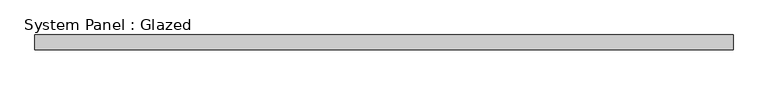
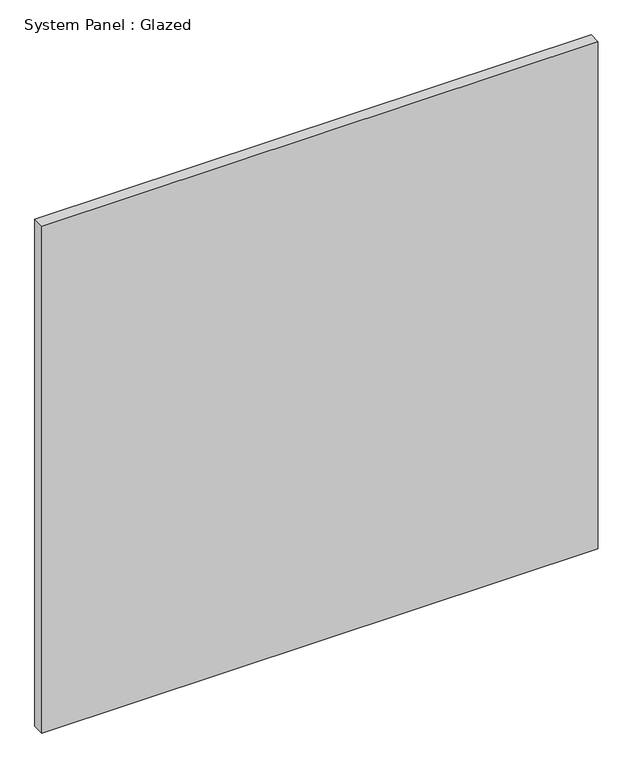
"""IFC4 building model written with IfcOpenShell, lengths in millimetres: plate geometry, System Panel : Glazed."""

import ifcopenshell
import ifcopenshell.guid

model = None  # the IFC model being written
_history = None  # IfcOwnerHistory: only IFC2X3 demands one
_inside = {}  # id of a spatial element -> (the spatial element, [elements in it])
_under = {}  # id of a project, library or spatial element -> (it, [spatial elements below it])
_declared = {}  # id of a project -> (the project, [libraries it declares])
_typed = {}  # id of a type object -> (the type object, [elements of that type])
_made_of = {}  # id of a material, layer set ... -> (it, [elements and type objects made of it])


def new_model(schema):
    """Start an empty IFC model of exactly this schema.

    Asked for "IFC4X3", IfcOpenShell would pick the latest addendum, in which some entities
    have other attributes; the version numbers below select the first issue.
    IFC2X3 requires an IfcOwnerHistory on every rooted entity: one is made here for all.
    """
    global model, _history
    if schema == "IFC4X3":
        model = ifcopenshell.file(schema_version=(4, 3, 0, 0))
    else:
        model = ifcopenshell.file(schema=schema)
    _inside.clear()
    _under.clear()
    _declared.clear()
    _typed.clear()
    _made_of.clear()
    _history = None
    if model.schema == "IFC2X3":
        org = make("IfcOrganization", Name="unknown")
        user = make(
            "IfcPersonAndOrganization",
            ThePerson=make("IfcPerson", FamilyName="unknown"),
            TheOrganization=org,
        )
        app = make(
            "IfcApplication",
            ApplicationDeveloper=org,
            Version="unknown",
            ApplicationFullName="unknown",
            ApplicationIdentifier="unknown",
        )
        _history = make(
            "IfcOwnerHistory",
            OwningUser=user,
            OwningApplication=app,
            ChangeAction="ADDED",
            CreationDate=0,
        )
    return model


def make(cls, **values):
    """One entity of the class cls with the attributes given. An attribute that is None is left unset."""
    return model.create_entity(
        cls, **{name: value for name, value in values.items() if value is not None}
    )


def rooted(cls, **values):
    """An entity with a GlobalId (a new one), such as an element, a storey or a relation."""
    return make(cls, GlobalId=ifcopenshell.guid.new(), OwnerHistory=_history, **values)


def si_unit(unit_type, name, prefix=None):
    """IfcSIUnit, for example si_unit("LENGTHUNIT", "METRE", prefix="MILLI")."""
    return make("IfcSIUnit", UnitType=unit_type, Prefix=prefix, Name=name)


def assignment(units):
    """IfcUnitAssignment: the units of a project."""
    return None if units is None else make("IfcUnitAssignment", Units=units)


def point(xyz):
    """IfcCartesianPoint."""
    return None if xyz is None else make("IfcCartesianPoint", Coordinates=xyz)


def direction(xyz):
    """IfcDirection."""
    return None if xyz is None else make("IfcDirection", DirectionRatios=xyz)


def frame(location, z_axis=None, x_axis=None):
    """IfcAxis2Placement3D, a coordinate frame: its origin and axes. An axis left out is left unset."""
    return make(
        "IfcAxis2Placement3D",
        Location=point(location),
        Axis=direction(z_axis),
        RefDirection=direction(x_axis),
    )


def origin():
    """The frame at (0, 0, 0) with its axes left unset."""
    return frame((0.0, 0.0, 0.0))


def origin_with_axes():
    """The frame at (0, 0, 0) with the z axis (0, 0, 1) and the x axis (1, 0, 0) written out."""
    return frame((0.0, 0.0, 0.0), z_axis=(0.0, 0.0, 1.0), x_axis=(1.0, 0.0, 0.0))


def place(relative_to, where):
    """IfcLocalPlacement: puts the frame where relative to a parent placement (None: the world)."""
    return make(
        "IfcLocalPlacement", PlacementRelTo=relative_to, RelativePlacement=where
    )


def context(
    kind, dimensions, precision=None, world=None, true_north=None, identifier=None
):
    """IfcGeometricRepresentationContext, for example the 3D "Model" context."""
    return make(
        "IfcGeometricRepresentationContext",
        ContextIdentifier=identifier,
        ContextType=kind,
        CoordinateSpaceDimension=dimensions,
        Precision=precision,
        WorldCoordinateSystem=world,
        TrueNorth=true_north,
    )


def project(units=None, contexts=None):
    """IfcProject with its units and contexts."""
    return rooted(
        "IfcProject",
        Name="project",
        RepresentationContexts=contexts,
        UnitsInContext=assignment(units),
    )


def spatial(cls, under=None, at=None, **own):
    """A site, building, storey or space (cls), placed at a placement, below another one or the project."""
    s = rooted(cls, ObjectPlacement=at, **own)
    if under is not None:
        _under.setdefault(under.id(), (under, []))[1].append(s)
    return s


def polyline(points):
    """IfcPolyline through the points."""
    return make("IfcPolyline", Points=[point(p) for p in points])


def outline(outer, holes=None, kind="AREA"):
    """IfcArbitraryClosedProfileDef: a profile drawn as a closed curve; with holes, ...WithVoids."""
    if holes is None:
        return make("IfcArbitraryClosedProfileDef", ProfileType=kind, OuterCurve=outer)
    return make(
        "IfcArbitraryProfileDefWithVoids",
        ProfileType=kind,
        OuterCurve=outer,
        InnerCurves=holes,
    )


def extrude(swept, where, along, depth):
    """IfcExtrudedAreaSolid: the profile swept, set in the frame where, extruded along a direction by depth."""
    return make(
        "IfcExtrudedAreaSolid",
        SweptArea=swept,
        Position=where,
        ExtrudedDirection=direction(along),
        Depth=depth,
    )


def shape(context_of_items, identifier, shape_type, items):
    """IfcShapeRepresentation: the items that make up one representation, for example the "Body"."""
    return make(
        "IfcShapeRepresentation",
        ContextOfItems=context_of_items,
        RepresentationIdentifier=identifier,
        RepresentationType=shape_type,
        Items=items,
    )


def source(mapping_origin, context_of_items, identifier, shape_type, items):
    """IfcRepresentationMap: a shape defined once, which mapped items show again and again."""
    return make(
        "IfcRepresentationMap",
        MappingOrigin=mapping_origin,
        MappedRepresentation=shape(context_of_items, identifier, shape_type, items),
    )


def transform(
    local_origin,
    x_axis=None,
    y_axis=None,
    z_axis=None,
    scale=None,
    scale2=None,
    scale3=None,
    uniform=True,
):
    """IfcCartesianTransformationOperator3D, or its non-uniform kind. x_axis, y_axis, z_axis: its Axis1, 2, 3."""
    if uniform:
        return make(
            "IfcCartesianTransformationOperator3D",
            Axis1=direction(x_axis),
            Axis2=direction(y_axis),
            LocalOrigin=point(local_origin),
            Scale=scale,
            Axis3=direction(z_axis),
        )
    return make(
        "IfcCartesianTransformationOperator3DnonUniform",
        Axis1=direction(x_axis),
        Axis2=direction(y_axis),
        LocalOrigin=point(local_origin),
        Scale=scale,
        Axis3=direction(z_axis),
        Scale2=scale2,
        Scale3=scale3,
    )


def mapped(mapping_source, mapping_target):
    """IfcMappedItem: shows the shape of a source again, moved by a transform."""
    return make(
        "IfcMappedItem", MappingSource=mapping_source, MappingTarget=mapping_target
    )


def made_of(thing, what):
    """Note that an element or type object is made of a material, layer set ...; save() writes the relation."""
    if what is not None:
        _made_of.setdefault(what.id(), (what, []))[1].append(thing)
    return thing


def element(
    cls,
    number,
    at=None,
    inside=None,
    cuts=None,
    type_object=None,
    material=None,
    context=None,
    identifier="Body",
    shape_type=None,
    held_by="IfcProductDefinitionShape",
    body=None,
    shapes=None,
    **own,
):
    """One element of the class cls, such as IfcWall. Its Tag is "e" and its number.

    at: its placement. inside: the storey or other place that contains it. cuts: it is an
    opening in that element (IfcRelVoidsElement). A single representation is given by context,
    identifier, shape_type and body (its items); several are given by shapes. held_by: the class
    of the entity that holds the representations. save() writes the other relations.
    """
    e = rooted(cls, Tag="e%d" % number, ObjectPlacement=at, **own)
    if body is not None:
        shapes = [shape(context, identifier, shape_type, body)]
    if shapes is not None:
        e.Representation = make(held_by, Representations=shapes)
    if inside is not None:
        _inside.setdefault(inside.id(), (inside, []))[1].append(e)
    if cuts is not None:
        rooted(
            "IfcRelVoidsElement", RelatingBuildingElement=cuts, RelatedOpeningElement=e
        )
    if type_object is not None:
        _typed.setdefault(type_object.id(), (type_object, []))[1].append(e)
    return made_of(e, material)


def aggregate(whole, parts):
    """IfcRelAggregates: a whole, such as a stair, and the parts it consists of."""
    return rooted("IfcRelAggregates", RelatingObject=whole, RelatedObjects=parts)


def save(model, path):
    """Write the relations noted so far, then the file.

    IfcRelAggregates (storeys below a building ...), IfcRelContainedInSpatialStructure (elements
    in a storey), IfcRelDefinesByType, IfcRelAssociatesMaterial and IfcRelDeclares: one each for
    every whole, place, type object, material and project.
    """
    for whole, parts in _under.values():
        aggregate(whole, parts)
    for where, things in _inside.values():
        rooted(
            "IfcRelContainedInSpatialStructure",
            RelatedElements=things,
            RelatingStructure=where,
        )
    for kind, things in _typed.values():
        rooted("IfcRelDefinesByType", RelatedObjects=things, RelatingType=kind)
    for what, things in _made_of.values():
        rooted("IfcRelAssociatesMaterial", RelatedObjects=things, RelatingMaterial=what)
    for by, libraries in _declared.values():
        rooted("IfcRelDeclares", RelatingContext=by, RelatedDefinitions=libraries)
    model.write(path)


def system_panel_glazed_401a8fb5(model_context):
    return source(origin(), model_context, "Body", "SweptSolid", [
        extrude(outline(polyline([(600.075, -44.45), (-600.075, -44.45), (-600.075, -19.05), (600.075, -19.05), (600.075, -44.45)])), origin_with_axes(), (0.0, 0.0, 1.0), 1155.7),
    ])


if __name__ == "__main__":
    model = new_model("IFC4")
    model_context = context("Model", 3, world=origin())
    ifc_project = project(units=[si_unit("LENGTHUNIT", "METRE", prefix="MILLI")], contexts=[model_context])
    site = spatial("IfcSite", under=ifc_project)
    building = spatial("IfcBuilding", under=site)
    placement = place(None, origin())
    system_panel_glazed_shape = system_panel_glazed_401a8fb5(model_context)
    element("IfcPlate", 1, ObjectType="System Panel : Glazed", at=placement, inside=building, context=model_context, shape_type="MappedRepresentation", body=[
        mapped(system_panel_glazed_shape, transform((0.0, 0.0, 0.0), x_axis=(1.0, 0.0, 0.0), y_axis=(0.0, 1.0, 0.0), z_axis=(0.0, 0.0, 1.0))),
    ])
    save(model, "model.ifc")
